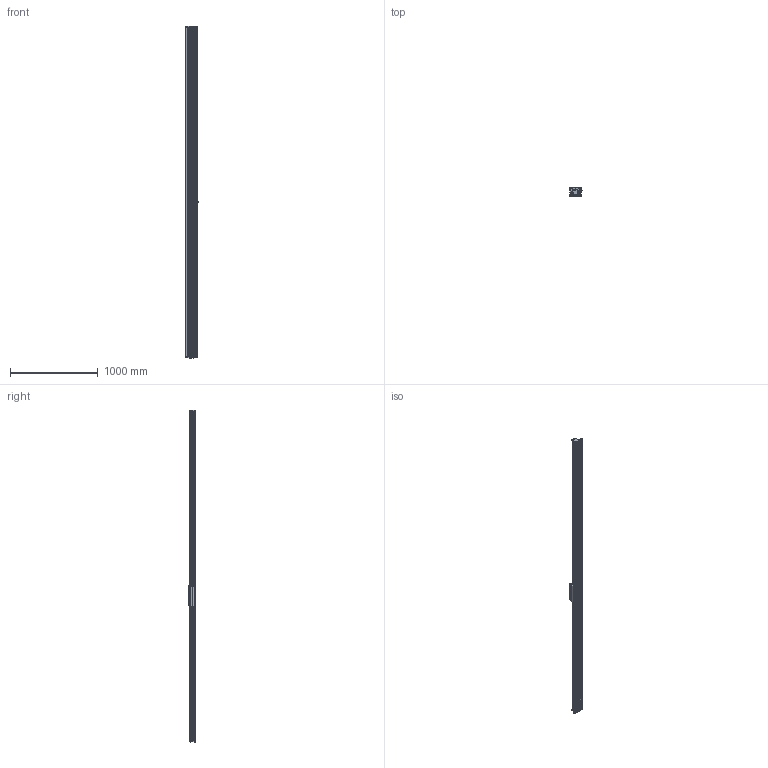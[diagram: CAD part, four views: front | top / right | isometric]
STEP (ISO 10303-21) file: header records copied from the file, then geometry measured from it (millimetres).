
FILE_DESCRIPTION (( 'STEP AP214' ), '1' );
FILE_NAME ('SINADRIVES Linear motor stage MLL20200XS-XX-1-0-ST-00-03780.STEP', '2015-07-06T10:24:48', ( 'Tecnico' ), ( '' ), 'SwSTEP 2.0', 'SolidWorks 2009', '' );
FILE_SCHEMA (( 'AUTOMOTIVE_DESIGN' ));
Length unit declared in the file: millimetre
Products named in the file (7): SINADRIVES PROFILE MLL2XXXX-3764; SINADRIVES CARRIAGE MLL20200XS-1; CARRIAGE MLL20200; Connector power+signal Y-tec 45; SINADRIVES ENDBLOCK MLL2; SINADRIVES ENDBLOCK MLL2-2; SINADRIVES Linear motor stage MLL20200XS-XX-1-0-ST-00-03780
Assembly tree (6 placements, depth 3):
  SINADRIVES Linear motor stage MLL20200XS-XX-1-0-ST-00-03780
    SINADRIVES PROFILE MLL2XXXX-3764
    SINADRIVES ENDBLOCK MLL2
    SINADRIVES CARRIAGE MLL20200XS-1
      CARRIAGE MLL20200
      Connector power+signal Y-tec 45
    SINADRIVES ENDBLOCK MLL2-2
Bounding box: 144.43 x 91 x 3788.8 mm (x, y, z)
Volume: 16334880.1 mm3; surface area: 2816922.1 mm2
Topology: 2 solids, 42 shells, 950 faces, 2640 edges, 1730 vertices
Faces by surface type: plane 445, cylinder 302, bspline 79, cone 70, torus 42, sphere 12
Entity records: 40587 total; most frequent: CARTESIAN_POINT 8656, ORIENTED_EDGE 5024, DIRECTION 4947, EDGE_CURVE 2622, AXIS2_PLACEMENT_3D 1781, VERTEX_POINT 1730, LINE 1385, VECTOR 1385
